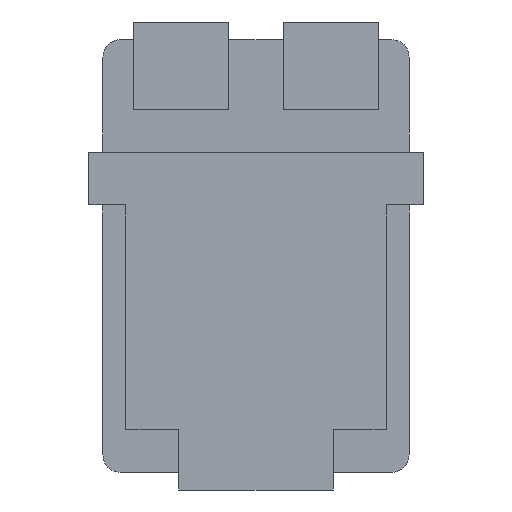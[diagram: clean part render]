
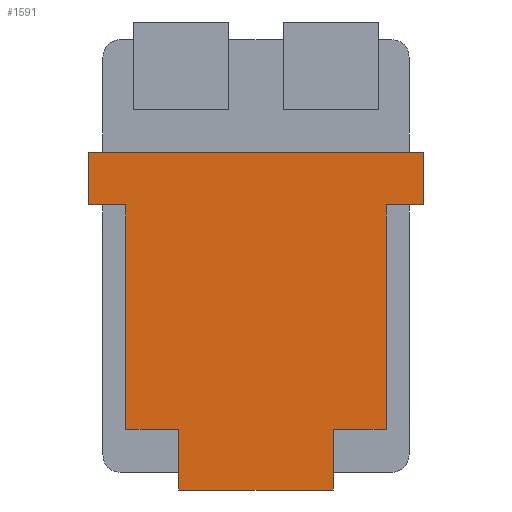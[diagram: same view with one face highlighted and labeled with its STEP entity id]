
A CAD part, front view. The second image highlights one B-rep face of the part: STEP entity #1591.
In plain terms, the highlighted planar face has unit normal (0, -1, 0).
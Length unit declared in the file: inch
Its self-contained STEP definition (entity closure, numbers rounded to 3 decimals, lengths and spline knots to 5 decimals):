
#2 = EDGE_CURVE ( 'NONE', #117, #229, #2144, .T. ) ;
#6 = DIRECTION ( 'NONE',  ( 1., 0., 0. ) ) ;
#16 = CARTESIAN_POINT ( 'NONE',  ( 0.0935, 0., 0.05807 ) ) ;
#54 = CARTESIAN_POINT ( 'NONE',  ( 0.04331, 0., -0.13091 ) ) ;
#63 = CARTESIAN_POINT ( 'NONE',  ( -0.07283, 0., -0.09705 ) ) ;
#79 = CARTESIAN_POINT ( 'NONE',  ( 0.0935, 0., 0.02854 ) ) ;
#100 = EDGE_CURVE ( 'NONE', #188, #373, #896, .T. ) ;
#117 = VERTEX_POINT ( 'NONE', #632 ) ;
#118 = VECTOR ( 'NONE', #1750, 39.37008 ) ;
#119 = CARTESIAN_POINT ( 'NONE',  ( -0.04331, 0., -0.09705 ) ) ;
#188 = VERTEX_POINT ( 'NONE', #796 ) ;
#226 = VERTEX_POINT ( 'NONE', #253 ) ;
#229 = VERTEX_POINT ( 'NONE', #54 ) ;
#237 = LINE ( 'NONE', #601, #2157 ) ;
#253 = CARTESIAN_POINT ( 'NONE',  ( -0.0935, 0., 0.05807 ) ) ;
#362 = VECTOR ( 'NONE', #2047, 39.37008 ) ;
#373 = VERTEX_POINT ( 'NONE', #1025 ) ;
#389 = LINE ( 'NONE', #2398, #2331 ) ;
#425 = LINE ( 'NONE', #1486, #1000 ) ;
#453 = ORIENTED_EDGE ( 'NONE', *, *, #2105, .T. ) ;
#464 = VECTOR ( 'NONE', #769, 39.37008 ) ;
#465 = FACE_OUTER_BOUND ( 'NONE', #2198, .T. ) ;
#557 = ORIENTED_EDGE ( 'NONE', *, *, #2126, .T. ) ;
#573 = CARTESIAN_POINT ( 'NONE',  ( -0.04331, 0., -0.13091 ) ) ;
#601 = CARTESIAN_POINT ( 'NONE',  ( 0.07283, 0., 0.02854 ) ) ;
#616 = CARTESIAN_POINT ( 'NONE',  ( -0.04331, 0., -0.09705 ) ) ;
#632 = CARTESIAN_POINT ( 'NONE',  ( -0.04331, 0., -0.13091 ) ) ;
#661 = LINE ( 'NONE', #938, #1744 ) ;
#668 = VERTEX_POINT ( 'NONE', #1022 ) ;
#741 = VECTOR ( 'NONE', #1912, 39.37008 ) ;
#752 = CARTESIAN_POINT ( 'NONE',  ( 0.04331, 0., -0.09705 ) ) ;
#769 = DIRECTION ( 'NONE',  ( 1., 0., 0. ) ) ;
#779 = ORIENTED_EDGE ( 'NONE', *, *, #2348, .T. ) ;
#783 = ORIENTED_EDGE ( 'NONE', *, *, #2268, .T. ) ;
#793 = EDGE_CURVE ( 'NONE', #229, #812, #1791, .T. ) ;
#796 = CARTESIAN_POINT ( 'NONE',  ( 0.07283, 0., -0.09705 ) ) ;
#812 = VERTEX_POINT ( 'NONE', #1665 ) ;
#896 = LINE ( 'NONE', #991, #2117 ) ;
#913 = EDGE_CURVE ( 'NONE', #373, #1255, #237, .T. ) ;
#938 = CARTESIAN_POINT ( 'NONE',  ( -0.04331, 0., -0.13091 ) ) ;
#991 = CARTESIAN_POINT ( 'NONE',  ( 0.07283, 0., -0.09705 ) ) ;
#1000 = VECTOR ( 'NONE', #6, 39.37008 ) ;
#1012 = EDGE_CURVE ( 'NONE', #1255, #1978, #1165, .T. ) ;
#1022 = CARTESIAN_POINT ( 'NONE',  ( -0.07283, 0., 0.02854 ) ) ;
#1025 = CARTESIAN_POINT ( 'NONE',  ( 0.07283, 0., 0.02854 ) ) ;
#1044 = ORIENTED_EDGE ( 'NONE', *, *, #793, .T. ) ;
#1052 = LINE ( 'NONE', #752, #362 ) ;
#1082 = CARTESIAN_POINT ( 'NONE',  ( 0.0935, 0., 0.02854 ) ) ;
#1088 = VECTOR ( 'NONE', #1541, 39.37008 ) ;
#1165 = LINE ( 'NONE', #79, #1574 ) ;
#1190 = ORIENTED_EDGE ( 'NONE', *, *, #2049, .T. ) ;
#1201 = LINE ( 'NONE', #616, #741 ) ;
#1255 = VERTEX_POINT ( 'NONE', #1082 ) ;
#1310 = DIRECTION ( 'NONE',  ( 0., 0., -1. ) ) ;
#1322 = ORIENTED_EDGE ( 'NONE', *, *, #1601, .T. ) ;
#1341 = DIRECTION ( 'NONE',  ( 0., 0., -1. ) ) ;
#1407 = CARTESIAN_POINT ( 'NONE',  ( -0.0935, 0., 0.02854 ) ) ;
#1486 = CARTESIAN_POINT ( 'NONE',  ( -0.07283, 0., 0.02854 ) ) ;
#1541 = DIRECTION ( 'NONE',  ( -1., 0., 0. ) ) ;
#1574 = VECTOR ( 'NONE', #2130, 39.37008 ) ;
#1591 = ADVANCED_FACE ( 'NONE', ( #465 ), #2058, .F. ) ;
#1601 = EDGE_CURVE ( 'NONE', #1864, #117, #661, .T. ) ;
#1607 = ORIENTED_EDGE ( 'NONE', *, *, #100, .T. ) ;
#1616 = LINE ( 'NONE', #16, #1088 ) ;
#1621 = VECTOR ( 'NONE', #1341, 39.37008 ) ;
#1657 = VERTEX_POINT ( 'NONE', #63 ) ;
#1661 = DIRECTION ( 'NONE',  ( 0., 0., -1. ) ) ;
#1665 = CARTESIAN_POINT ( 'NONE',  ( 0.04331, 0., -0.09705 ) ) ;
#1668 = DIRECTION ( 'NONE',  ( 0., 0., 1. ) ) ;
#1675 = DIRECTION ( 'NONE',  ( 0., 1., 0. ) ) ;
#1695 = CARTESIAN_POINT ( 'NONE',  ( 0.04331, 0., -0.13091 ) ) ;
#1725 = CARTESIAN_POINT ( 'NONE',  ( -0.0935, 0., 0.02854 ) ) ;
#1743 = AXIS2_PLACEMENT_3D ( 'NONE', #2067, #1675, #1668 ) ;
#1744 = VECTOR ( 'NONE', #1310, 39.37008 ) ;
#1750 = DIRECTION ( 'NONE',  ( 0., 0., 1. ) ) ;
#1791 = LINE ( 'NONE', #1695, #118 ) ;
#1836 = VERTEX_POINT ( 'NONE', #1407 ) ;
#1864 = VERTEX_POINT ( 'NONE', #119 ) ;
#1912 = DIRECTION ( 'NONE',  ( 1., 0., 0. ) ) ;
#1978 = VERTEX_POINT ( 'NONE', #2217 ) ;
#1991 = LINE ( 'NONE', #1725, #1621 ) ;
#2039 = ORIENTED_EDGE ( 'NONE', *, *, #1012, .T. ) ;
#2047 = DIRECTION ( 'NONE',  ( 1., 0., 0. ) ) ;
#2049 = EDGE_CURVE ( 'NONE', #1657, #1864, #1201, .T. ) ;
#2058 = PLANE ( 'NONE',  #1743 ) ;
#2067 = CARTESIAN_POINT ( 'NONE',  ( 0.04331, 0., -0.09705 ) ) ;
#2080 = DIRECTION ( 'NONE',  ( 1., 0., 0. ) ) ;
#2097 = ORIENTED_EDGE ( 'NONE', *, *, #2, .T. ) ;
#2105 = EDGE_CURVE ( 'NONE', #226, #1836, #1991, .T. ) ;
#2116 = DIRECTION ( 'NONE',  ( 0., 0., 1. ) ) ;
#2117 = VECTOR ( 'NONE', #2116, 39.37008 ) ;
#2126 = EDGE_CURVE ( 'NONE', #668, #1657, #389, .T. ) ;
#2130 = DIRECTION ( 'NONE',  ( 0., 0., 1. ) ) ;
#2137 = EDGE_CURVE ( 'NONE', #812, #188, #1052, .T. ) ;
#2144 = LINE ( 'NONE', #573, #464 ) ;
#2157 = VECTOR ( 'NONE', #2080, 39.37008 ) ;
#2198 = EDGE_LOOP ( 'NONE', ( #1044, #2293, #1607, #2254, #2039, #779, #453, #783, #557, #1190, #1322, #2097 ) ) ;
#2217 = CARTESIAN_POINT ( 'NONE',  ( 0.0935, 0., 0.05807 ) ) ;
#2254 = ORIENTED_EDGE ( 'NONE', *, *, #913, .T. ) ;
#2268 = EDGE_CURVE ( 'NONE', #1836, #668, #425, .T. ) ;
#2293 = ORIENTED_EDGE ( 'NONE', *, *, #2137, .T. ) ;
#2331 = VECTOR ( 'NONE', #1661, 39.37008 ) ;
#2348 = EDGE_CURVE ( 'NONE', #1978, #226, #1616, .T. ) ;
#2398 = CARTESIAN_POINT ( 'NONE',  ( -0.07283, 0., -0.09705 ) ) ;
